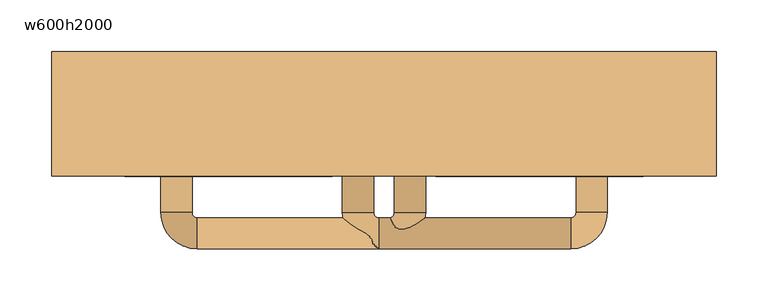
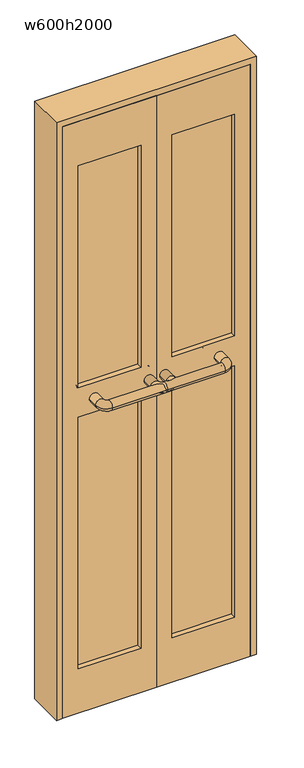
"""IFC4 building model written with IfcOpenShell, lengths in millimetres: door geometry, 浴室折戸 : w600h2000."""

from ifc_helpers import new_model, si_unit, point, frame, origin, place, context, project, spatial, polyline, circle_curve, ellipse_curve, trimmed, outline, extrude, source, transform, mapped, element, save
from ifc_brep_helpers import cylinder_surface, revolved_surface, advanced_brep


def w600h2000_94bb9c3c(model_context):
    return source(origin(), model_context, "Body", "SolidModel", [
        extrude(outline(polyline([(-50.0, -40.0), (-50.0, -42.5), (-250.0, -42.5), (-250.0, -40.0), (-50.0, -40.0)])), frame((0.0, 0.0, 150.0), z_axis=(0.0, 0.0, 1.0), x_axis=(1.0, 0.0, 0.0)), (0.0, 0.0, 1.0), 1700.0),
        extrude(outline(polyline([(250.0, -40.0), (250.0, -42.5), (50.0, -42.5), (50.0, -40.0), (250.0, -40.0)])), frame((0.0, 0.0, 150.0), z_axis=(0.0, 0.0, 1.0), x_axis=(1.0, 0.0, 0.0)), (0.0, 0.0, 1.0), 1700.0),
        extrude(outline(polyline([(2000.0, 0.0), (2000.0, -300.0), (0.0, -300.0), (0.0, 0.0), (2000.0, 0.0)]), holes=[polyline([(1850.0, -50.0), (1100.0, -50.0), (1100.0, -250.0), (1850.0, -250.0), (1850.0, -50.0)]), polyline([(1000.0, -250.0), (1000.0, -50.0), (150.0, -50.0), (150.0, -250.0), (1000.0, -250.0)])]), frame((0.0, -60.0, 0.0), z_axis=(0.0, 1.0, 0.0), x_axis=(0.0, 0.0, 1.0)), (0.0, 0.0, 1.0), 30.0),
        extrude(outline(polyline([(2020.0, -320.0), (0.0, -320.0), (0.0, -300.0), (2000.0, -300.0), (2000.0, 300.0), (0.0, 300.0), (0.0, 320.0), (2020.0, 320.0), (2020.0, -320.0)])), frame((0.0, -60.0, 0.0), z_axis=(0.0, 1.0, 0.0), x_axis=(0.0, 0.0, 1.0)), (0.0, 0.0, 1.0), 120.0),
        extrude(outline(polyline([(2000.0, 300.0), (2000.0, 0.0), (0.0, 0.0), (0.0, 300.0), (2000.0, 300.0)]), holes=[polyline([(1850.0, 250.0), (1100.0, 250.0), (1100.0, 50.0), (1850.0, 50.0), (1850.0, 250.0)]), polyline([(1000.0, 50.0), (1000.0, 250.0), (150.0, 250.0), (150.0, 50.0), (1000.0, 50.0)])]), frame((0.0, -60.0, 0.0), z_axis=(0.0, 1.0, 0.0), x_axis=(0.0, 0.0, 1.0)), (0.0, 0.0, 1.0), 30.0),
        advanced_brep(
        [(-40.0, 5.0, 1050.0), (-10.0, 5.0, 1050.0), (-5.0, 10.0, 1050.0), (-5.0, 40.0, 1050.0), (-40.0, -95.0, 1050.0), (-10.0, -95.0, 1050.0), (-5.0, -130.0, 1050.0), (-5.0, -100.0, 1050.0), (180.0, -130.0, 1050.0), (180.0, -100.0, 1050.0), (215.0, -95.0, 1050.0), (185.0, -95.0, 1050.0), (215.0, 5.0, 1050.0), (185.0, 5.0, 1050.0), (180.0, 40.0, 1050.0), (180.0, 10.0, 1050.0)],
        [
            (0, 1, circle_curve(frame((-25.0, 5.0, 1050.0), z_axis=(0.0, 1.0, 0.0), x_axis=(-1.0, 0.0, 0.0)), 15.0)),
            (1, 2, circle_curve(frame((-5.0, 5.0, 1050.0), z_axis=(0.0, 0.0, -1.0), x_axis=(0.0, 1.0, 0.0)), 5.0)),
            (2, 3, circle_curve(frame((-5.0, 25.0, 1050.0), z_axis=(-1.0, 0.0, 0.0), x_axis=(0.0, 1.0, 0.0)), 15.0)),
            (3, 0, circle_curve(frame((-5.0, 5.0, 1050.0), z_axis=(0.0, 0.0, 1.0), x_axis=(0.0, 1.0, 0.0)), 35.0)),
            (1, 0, circle_curve(frame((-25.0, 5.0, 1050.0), z_axis=(0.0, 1.0, 0.0), x_axis=(-1.0, 0.0, 0.0)), 15.0)),
            (3, 2, circle_curve(frame((-5.0, 25.0, 1050.0), z_axis=(-1.0, 0.0, 0.0), x_axis=(0.0, 1.0, 0.0)), 15.0)),
            (0, 4),
            (4, 5, circle_curve(frame((-25.0, -95.0, 1050.0), z_axis=(0.0, 1.0, 0.0), x_axis=(-1.0, 0.0, 0.0)), 15.0)),
            (5, 1),
            (5, 4, circle_curve(frame((-25.0, -95.0, 1050.0), z_axis=(0.0, 1.0, 0.0), x_axis=(-1.0, 0.0, 0.0)), 15.0)),
            (6, 7, circle_curve(frame((-5.0, -115.0, 1050.0), z_axis=(-1.0, 0.0, 0.0), x_axis=(0.0, -1.0, 0.0)), 15.0)),
            (7, 5, circle_curve(frame((-5.0, -95.0, 1050.0), z_axis=(0.0, 0.0, -1.0), x_axis=(-1.0, 0.0, 0.0)), 5.0)),
            (4, 6, circle_curve(frame((-5.0, -95.0, 1050.0), z_axis=(0.0, 0.0, 1.0), x_axis=(-1.0, 0.0, 0.0)), 35.0)),
            (7, 6, circle_curve(frame((-5.0, -115.0, 1050.0), z_axis=(-1.0, 0.0, 0.0), x_axis=(0.0, -1.0, 0.0)), 15.0)),
            (6, 8),
            (8, 9, circle_curve(frame((180.0, -115.0, 1050.0), z_axis=(-1.0, 0.0, 0.0), x_axis=(0.0, -1.0, 0.0)), 15.0)),
            (9, 7),
            (9, 8, circle_curve(frame((180.0, -115.0, 1050.0), z_axis=(-1.0, 0.0, 0.0), x_axis=(0.0, -1.0, 0.0)), 15.0)),
            (10, 11, circle_curve(frame((200.0, -95.0, 1050.0), z_axis=(0.0, -1.0, 0.0), x_axis=(1.0, 0.0, 0.0)), 15.0)),
            (11, 9, circle_curve(frame((180.0, -95.0, 1050.0), z_axis=(0.0, 0.0, -1.0), x_axis=(0.0, -1.0, 0.0)), 5.0)),
            (8, 10, circle_curve(frame((180.0, -95.0, 1050.0), z_axis=(0.0, 0.0, 1.0), x_axis=(0.0, -1.0, 0.0)), 35.0)),
            (11, 10, circle_curve(frame((200.0, -95.0, 1050.0), z_axis=(0.0, -1.0, 0.0), x_axis=(1.0, 0.0, 0.0)), 15.0)),
            (10, 12),
            (12, 13, circle_curve(frame((200.0, 5.0, 1050.0), z_axis=(0.0, -1.0, 0.0), x_axis=(1.0, 0.0, 0.0)), 15.0)),
            (13, 11),
            (13, 12, circle_curve(frame((200.0, 5.0, 1050.0), z_axis=(0.0, -1.0, 0.0), x_axis=(1.0, 0.0, 0.0)), 15.0)),
            (14, 15, circle_curve(frame((180.0, 25.0, 1050.0), z_axis=(1.0, 0.0, 0.0), x_axis=(0.0, 1.0, 0.0)), 15.0)),
            (15, 13, circle_curve(frame((180.0, 5.0, 1050.0), z_axis=(0.0, 0.0, -1.0), x_axis=(1.0, 0.0, 0.0)), 5.0)),
            (12, 14, circle_curve(frame((180.0, 5.0, 1050.0), z_axis=(0.0, 0.0, 1.0), x_axis=(1.0, 0.0, 0.0)), 35.0)),
            (15, 14, circle_curve(frame((180.0, 25.0, 1050.0), z_axis=(1.0, 0.0, 0.0), x_axis=(0.0, 1.0, 0.0)), 15.0)),
            (14, 3),
            (2, 15),
        ],
        [
            revolved_surface(trimmed(ellipse_curve(frame((-5.0, 25.0, 1050.0), z_axis=(-1.0, 0.0, 0.0), x_axis=(0.0, 1.0, 0.0)), 15.0, 15.0), [point((-5.0, 10.0, 1050.0))], [point((-5.0, 40.0, 1050.0))], True, "CARTESIAN"), (-5.0, 5.0, 0.0), (0.0, 0.0, -1.0)),
            revolved_surface(trimmed(ellipse_curve(frame((-5.0, 25.0, 1050.0), z_axis=(-1.0, 0.0, 0.0), x_axis=(0.0, 1.0, 0.0)), 15.0, 15.0), [point((-5.0, 40.0, 1050.0))], [point((-5.0, 10.0, 1050.0))], True, "CARTESIAN"), (-5.0, 5.0, 0.0), (0.0, 0.0, -1.0)),
            cylinder_surface(frame((-25.0, 5.0, 1050.0), z_axis=(0.0, 1.0, 0.0), x_axis=(-1.0, 0.0, 0.0)), 15.0),
            revolved_surface(trimmed(ellipse_curve(frame((-25.0, -95.0, 1050.0), z_axis=(0.0, -1.0, 0.0), x_axis=(-1.0, 0.0, 0.0)), 15.0, 15.0), [point((-10.0, -95.0, 1050.0))], [point((-40.0, -95.0, 1050.0))], True, "CARTESIAN"), (-5.0, -95.0, 0.0), (0.0, 0.0, -1.0)),
            revolved_surface(trimmed(ellipse_curve(frame((-25.0, -95.0, 1050.0), z_axis=(0.0, -1.0, 0.0), x_axis=(-1.0, 0.0, 0.0)), 15.0, 15.0), [point((-40.0, -95.0, 1050.0))], [point((-10.0, -95.0, 1050.0))], True, "CARTESIAN"), (-5.0, -95.0, 0.0), (0.0, 0.0, -1.0)),
            cylinder_surface(frame((-5.0, -115.0, 1050.0), z_axis=(-1.0, 0.0, 0.0), x_axis=(0.0, -1.0, 0.0)), 15.0),
            revolved_surface(trimmed(ellipse_curve(frame((180.0, -115.0, 1050.0), z_axis=(1.0, 0.0, 0.0), x_axis=(0.0, -1.0, 0.0)), 15.0, 15.0), [point((180.0, -100.0, 1050.0))], [point((180.0, -130.0, 1050.0))], True, "CARTESIAN"), (180.0, -95.0, 0.0), (0.0, 0.0, -1.0)),
            revolved_surface(trimmed(ellipse_curve(frame((180.0, -115.0, 1050.0), z_axis=(1.0, 0.0, 0.0), x_axis=(0.0, -1.0, 0.0)), 15.0, 15.0), [point((180.0, -130.0, 1050.0))], [point((180.0, -100.0, 1050.0))], True, "CARTESIAN"), (180.0, -95.0, 0.0), (0.0, 0.0, -1.0)),
            cylinder_surface(frame((200.0, -95.0, 1050.0), z_axis=(0.0, -1.0, 0.0), x_axis=(1.0, 0.0, 0.0)), 15.0),
            revolved_surface(trimmed(ellipse_curve(frame((200.0, 5.0, 1050.0), z_axis=(0.0, 1.0, 0.0), x_axis=(1.0, 0.0, 0.0)), 15.0, 15.0), [point((185.0, 5.0, 1050.0))], [point((215.0, 5.0, 1050.0))], True, "CARTESIAN"), (180.0, 5.0, 0.0), (0.0, 0.0, -1.0)),
            revolved_surface(trimmed(ellipse_curve(frame((200.0, 5.0, 1050.0), z_axis=(0.0, 1.0, 0.0), x_axis=(1.0, 0.0, 0.0)), 15.0, 15.0), [point((215.0, 5.0, 1050.0))], [point((185.0, 5.0, 1050.0))], True, "CARTESIAN"), (180.0, 5.0, 0.0), (0.0, 0.0, -1.0)),
            cylinder_surface(frame((180.0, 25.0, 1050.0), z_axis=(1.0, 0.0, 0.0), x_axis=(0.0, 1.0, 0.0)), 15.0),
        ],
        [
            (0, [[1, 2, 3, 4]]),
            (1, [[5, -4, 6, -2]]),
            (2, [[7, 8, 9, -1]]),
            (2, [[-9, 10, -7, -5]]),
            (3, [[11, 12, -8, 13]]),
            (4, [[14, -13, -10, -12]]),
            (5, [[15, 16, 17, -11]]),
            (5, [[-17, 18, -15, -14]]),
            (6, [[19, 20, -16, 21]]),
            (7, [[22, -21, -18, -20]]),
            (8, [[23, 24, 25, -19]]),
            (8, [[-25, 26, -23, -22]]),
            (9, [[27, 28, -24, 29]]),
            (10, [[30, -29, -26, -28]]),
            (11, [[31, -3, 32, -27]]),
            (11, [[-32, -6, -31, -30]]),
        ],
    ),
        advanced_brep(
        [(10.0, 5.0, 1050.0), (40.0, 5.0, 1050.0), (5.0, 40.0, 1050.0), (5.0, 10.0, 1050.0), (10.0, -95.0, 1050.0), (40.0, -95.0, 1050.0), (5.0, -100.0, 1050.0), (5.0, -130.0, 1050.0), (-180.0, -100.0, 1050.0), (-180.0, -130.0, 1050.0), (-185.0, -95.0, 1050.0), (-215.0, -95.0, 1050.0), (-185.0, 5.0, 1050.0), (-215.0, 5.0, 1050.0), (-180.0, 10.0, 1050.0), (-180.0, 40.0, 1050.0)],
        [
            (0, 1, circle_curve(frame((25.0, 5.0, 1050.0), z_axis=(0.0, 1.0, 0.0), x_axis=(-1.0, 0.0, 0.0)), 15.0)),
            (1, 2, circle_curve(frame((5.0, 5.0, 1050.0), z_axis=(0.0, 0.0, 1.0), x_axis=(0.0, 1.0, 0.0)), 35.0)),
            (2, 3, circle_curve(frame((5.0, 25.0, 1050.0), z_axis=(1.0, 0.0, 0.0), x_axis=(0.0, -1.0, 0.0)), 15.0)),
            (3, 0, circle_curve(frame((5.0, 5.0, 1050.0), z_axis=(0.0, 0.0, -1.0), x_axis=(0.0, 1.0, 0.0)), 5.0)),
            (1, 0, circle_curve(frame((25.0, 5.0, 1050.0), z_axis=(0.0, 1.0, 0.0), x_axis=(-1.0, 0.0, 0.0)), 15.0)),
            (3, 2, circle_curve(frame((5.0, 25.0, 1050.0), z_axis=(1.0, 0.0, 0.0), x_axis=(0.0, -1.0, 0.0)), 15.0)),
            (0, 4),
            (4, 5, circle_curve(frame((25.0, -95.0, 1050.0), z_axis=(0.0, 1.0, 0.0), x_axis=(-1.0, 0.0, 0.0)), 15.0)),
            (5, 1),
            (5, 4, circle_curve(frame((25.0, -95.0, 1050.0), z_axis=(0.0, 1.0, 0.0), x_axis=(-1.0, 0.0, 0.0)), 15.0)),
            (6, 7, circle_curve(frame((5.0, -115.0, 1050.0), z_axis=(1.0, 0.0, 0.0), x_axis=(0.0, 1.0, 0.0)), 15.0)),
            (7, 5, circle_curve(frame((5.0, -95.0, 1050.0), z_axis=(0.0, 0.0, 1.0), x_axis=(1.0, 0.0, 0.0)), 35.0)),
            (4, 6, circle_curve(frame((5.0, -95.0, 1050.0), z_axis=(0.0, 0.0, -1.0), x_axis=(1.0, 0.0, 0.0)), 5.0)),
            (7, 6, circle_curve(frame((5.0, -115.0, 1050.0), z_axis=(1.0, 0.0, 0.0), x_axis=(0.0, 1.0, 0.0)), 15.0)),
            (6, 8),
            (8, 9, circle_curve(frame((-180.0, -115.0, 1050.0), z_axis=(1.0, 0.0, 0.0), x_axis=(0.0, 1.0, 0.0)), 15.0)),
            (9, 7),
            (9, 8, circle_curve(frame((-180.0, -115.0, 1050.0), z_axis=(1.0, 0.0, 0.0), x_axis=(0.0, 1.0, 0.0)), 15.0)),
            (10, 11, circle_curve(frame((-200.0, -95.0, 1050.0), z_axis=(0.0, -1.0, 0.0), x_axis=(1.0, 0.0, 0.0)), 15.0)),
            (11, 9, circle_curve(frame((-180.0, -95.0, 1050.0), z_axis=(0.0, 0.0, 1.0), x_axis=(0.0, -1.0, 0.0)), 35.0)),
            (8, 10, circle_curve(frame((-180.0, -95.0, 1050.0), z_axis=(0.0, 0.0, -1.0), x_axis=(0.0, -1.0, 0.0)), 5.0)),
            (11, 10, circle_curve(frame((-200.0, -95.0, 1050.0), z_axis=(0.0, -1.0, 0.0), x_axis=(1.0, 0.0, 0.0)), 15.0)),
            (10, 12),
            (12, 13, circle_curve(frame((-200.0, 5.0, 1050.0), z_axis=(0.0, -1.0, 0.0), x_axis=(1.0, 0.0, 0.0)), 15.0)),
            (13, 11),
            (13, 12, circle_curve(frame((-200.0, 5.0, 1050.0), z_axis=(0.0, -1.0, 0.0), x_axis=(1.0, 0.0, 0.0)), 15.0)),
            (14, 15, circle_curve(frame((-180.0, 25.0, 1050.0), z_axis=(-1.0, 0.0, 0.0), x_axis=(0.0, -1.0, 0.0)), 15.0)),
            (15, 13, circle_curve(frame((-180.0, 5.0, 1050.0), z_axis=(0.0, 0.0, 1.0), x_axis=(-1.0, 0.0, 0.0)), 35.0)),
            (12, 14, circle_curve(frame((-180.0, 5.0, 1050.0), z_axis=(0.0, 0.0, -1.0), x_axis=(-1.0, 0.0, 0.0)), 5.0)),
            (15, 14, circle_curve(frame((-180.0, 25.0, 1050.0), z_axis=(-1.0, 0.0, 0.0), x_axis=(0.0, -1.0, 0.0)), 15.0)),
            (14, 3),
            (2, 15),
        ],
        [
            revolved_surface(trimmed(ellipse_curve(frame((5.0, 25.0, 1050.0), z_axis=(1.0, 0.0, 0.0), x_axis=(0.0, -1.0, 0.0)), 15.0, 15.0), [point((5.0, 40.0, 1050.0))], [point((5.0, 10.0, 1050.0))], True, "CARTESIAN"), (5.0, 5.0, 0.0), (0.0, 0.0, 1.0)),
            revolved_surface(trimmed(ellipse_curve(frame((5.0, 25.0, 1050.0), z_axis=(1.0, 0.0, 0.0), x_axis=(0.0, -1.0, 0.0)), 15.0, 15.0), [point((5.0, 10.0, 1050.0))], [point((5.0, 40.0, 1050.0))], True, "CARTESIAN"), (5.0, 5.0, 0.0), (0.0, 0.0, 1.0)),
            cylinder_surface(frame((25.0, 5.0, 1050.0), z_axis=(0.0, 1.0, 0.0), x_axis=(-1.0, 0.0, 0.0)), 15.0),
            revolved_surface(trimmed(ellipse_curve(frame((25.0, -95.0, 1050.0), z_axis=(0.0, -1.0, 0.0), x_axis=(-1.0, 0.0, 0.0)), 15.0, 15.0), [point((40.0, -95.0, 1050.0))], [point((10.0, -95.0, 1050.0))], True, "CARTESIAN"), (5.0, -95.0, 0.0), (0.0, 0.0, 1.0)),
            revolved_surface(trimmed(ellipse_curve(frame((25.0, -95.0, 1050.0), z_axis=(0.0, -1.0, 0.0), x_axis=(-1.0, 0.0, 0.0)), 15.0, 15.0), [point((10.0, -95.0, 1050.0))], [point((40.0, -95.0, 1050.0))], True, "CARTESIAN"), (5.0, -95.0, 0.0), (0.0, 0.0, 1.0)),
            cylinder_surface(frame((5.0, -115.0, 1050.0), z_axis=(1.0, 0.0, 0.0), x_axis=(0.0, 1.0, 0.0)), 15.0),
            revolved_surface(trimmed(ellipse_curve(frame((-180.0, -115.0, 1050.0), z_axis=(-1.0, 0.0, 0.0), x_axis=(0.0, 1.0, 0.0)), 15.0, 15.0), [point((-180.0, -130.0, 1050.0))], [point((-180.0, -100.0, 1050.0))], True, "CARTESIAN"), (-180.0, -95.0, 0.0), (0.0, 0.0, 1.0)),
            revolved_surface(trimmed(ellipse_curve(frame((-180.0, -115.0, 1050.0), z_axis=(-1.0, 0.0, 0.0), x_axis=(0.0, 1.0, 0.0)), 15.0, 15.0), [point((-180.0, -100.0, 1050.0))], [point((-180.0, -130.0, 1050.0))], True, "CARTESIAN"), (-180.0, -95.0, 0.0), (0.0, 0.0, 1.0)),
            cylinder_surface(frame((-200.0, -95.0, 1050.0), z_axis=(0.0, -1.0, 0.0), x_axis=(1.0, 0.0, 0.0)), 15.0),
            revolved_surface(trimmed(ellipse_curve(frame((-200.0, 5.0, 1050.0), z_axis=(0.0, 1.0, 0.0), x_axis=(1.0, 0.0, 0.0)), 15.0, 15.0), [point((-215.0, 5.0, 1050.0))], [point((-185.0, 5.0, 1050.0))], True, "CARTESIAN"), (-180.0, 5.0, 0.0), (0.0, 0.0, 1.0)),
            revolved_surface(trimmed(ellipse_curve(frame((-200.0, 5.0, 1050.0), z_axis=(0.0, 1.0, 0.0), x_axis=(1.0, 0.0, 0.0)), 15.0, 15.0), [point((-185.0, 5.0, 1050.0))], [point((-215.0, 5.0, 1050.0))], True, "CARTESIAN"), (-180.0, 5.0, 0.0), (0.0, 0.0, 1.0)),
            cylinder_surface(frame((-180.0, 25.0, 1050.0), z_axis=(-1.0, 0.0, 0.0), x_axis=(0.0, -1.0, 0.0)), 15.0),
        ],
        [
            (0, [[1, 2, 3, 4]]),
            (1, [[5, -4, 6, -2]]),
            (2, [[7, 8, 9, -1]]),
            (2, [[-9, 10, -7, -5]]),
            (3, [[11, 12, -8, 13]]),
            (4, [[14, -13, -10, -12]]),
            (5, [[15, 16, 17, -11]]),
            (5, [[-17, 18, -15, -14]]),
            (6, [[19, 20, -16, 21]]),
            (7, [[22, -21, -18, -20]]),
            (8, [[23, 24, 25, -19]]),
            (8, [[-25, 26, -23, -22]]),
            (9, [[27, 28, -24, 29]]),
            (10, [[30, -29, -26, -28]]),
            (11, [[31, -3, 32, -27]]),
            (11, [[-32, -6, -31, -30]]),
        ],
    ),
    ])


if __name__ == "__main__":
    model = new_model("IFC4")
    model_context = context("Model", 3, world=origin())
    ifc_project = project(units=[si_unit("LENGTHUNIT", "METRE", prefix="MILLI")], contexts=[model_context])
    site = spatial("IfcSite", under=ifc_project)
    building = spatial("IfcBuilding", under=site)
    placement = place(None, origin())
    w600h2000_shape = w600h2000_94bb9c3c(model_context)
    element("IfcDoor", 1, ObjectType="浴室折戸 : w600h2000", at=placement, inside=building, context=model_context, shape_type="MappedRepresentation", body=[
        mapped(w600h2000_shape, transform((0.0, 0.0, 0.0), x_axis=(1.0, 0.0, 0.0), y_axis=(0.0, 1.0, 0.0), z_axis=(0.0, 0.0, 1.0))),
    ])
    save(model, "model.ifc")
